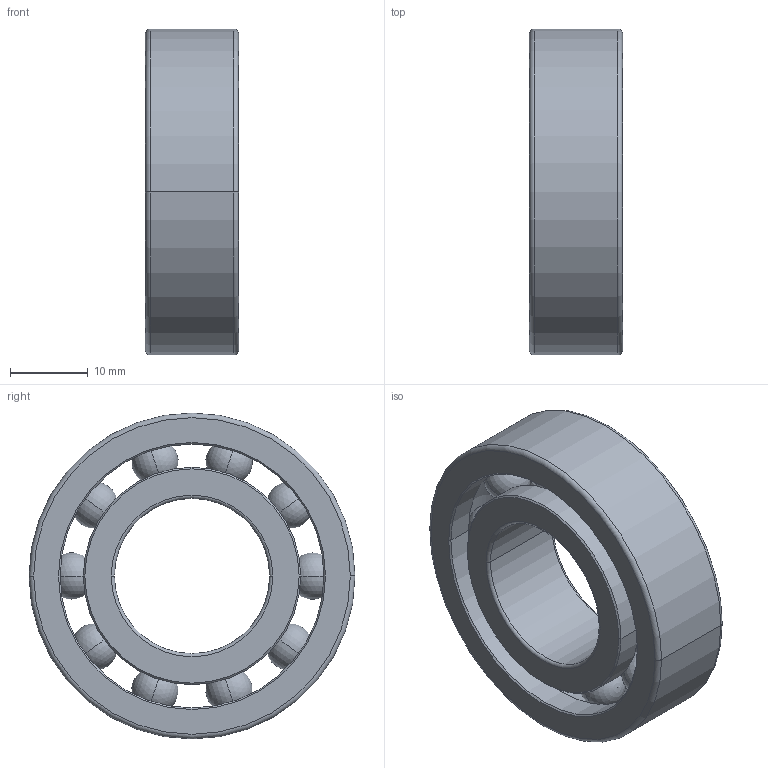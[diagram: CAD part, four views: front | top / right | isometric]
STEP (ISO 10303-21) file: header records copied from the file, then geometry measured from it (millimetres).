
FILE_DESCRIPTION (( 'STEP AP203' ), '1' );
FILE_NAME ('20mm Bearing SKF 6004 (RS 286-7631).STEP', '2012-01-01T15:29:26', ( '' ), ( '' ), 'SwSTEP 2.0', 'SolidWorks 2011', '' );
FILE_SCHEMA (( 'CONFIG_CONTROL_DESIGN' ));
Length unit declared in the file: millimetre
Products named in the file (1): 20mm Bearing SKF 6004 (RS 286-7631)
Bounding box: 12 x 42 x 42 mm (x, y, z)
Volume: 9370.9 mm3; surface area: 7442.6 mm2
Topology: 12 solids, 12 shells, 151 faces, 392 edges, 256 vertices
Faces by surface type: plane 55, bspline 42, sphere 20, torus 14, cylinder 12, cone 8
Entity records: 6543 total; most frequent: CARTESIAN_POINT 3290, ORIENTED_EDGE 684, DIRECTION 554, EDGE_CURVE 342, VERTEX_POINT 226, AXIS2_PLACEMENT_3D 186, LINE 182, VECTOR 182
